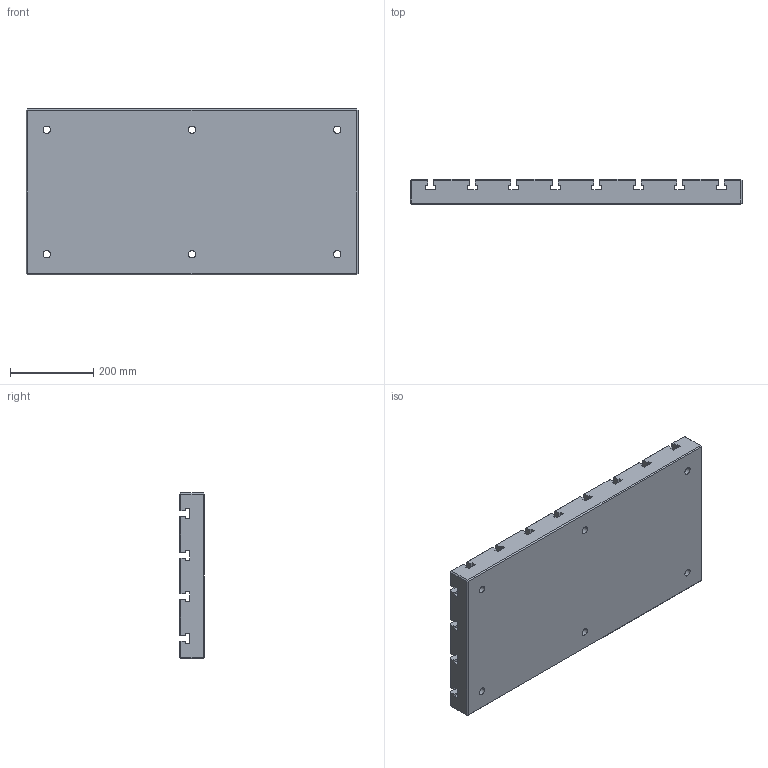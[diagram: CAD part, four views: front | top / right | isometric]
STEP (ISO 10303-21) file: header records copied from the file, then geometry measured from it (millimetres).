
FILE_DESCRIPTION((''),'2;1');
FILE_NAME('FG_WH_BASPL_RCTSLNP003','2026-05-17T10:52:04',('Admin'),(''),'CREO PARAMETRIC BY PTC INC, 2025010','CREO PARAMETRIC BY PTC INC, 2025010','');
FILE_SCHEMA(('CONFIG_CONTROL_DESIGN'));
Length unit declared in the file: millimetre
Products named in the file (1): FG_WH_BASPL_RCTSLNP003
Bounding box: 800 x 60 x 400 mm (x, y, z)
Volume: 16486908.6 mm3; surface area: 1140961.6 mm2
Topology: 1 solids, 1 shells, 500 faces, 1352 edges, 896 vertices
Faces by surface type: plane 460, cylinder 40
Entity records: 15506 total; most frequent: CARTESIAN_POINT 2748, ORIENTED_EDGE 2704, DIRECTION 2448, EDGE_CURVE 1352, VECTOR 1256, LINE 1256, VERTEX_POINT 896, AXIS2_PLACEMENT_3D 596
